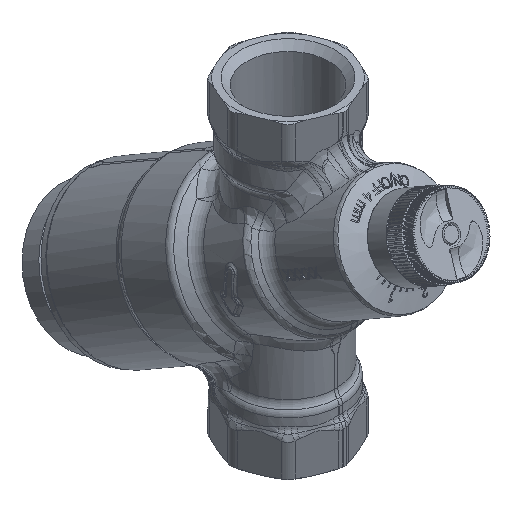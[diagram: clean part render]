
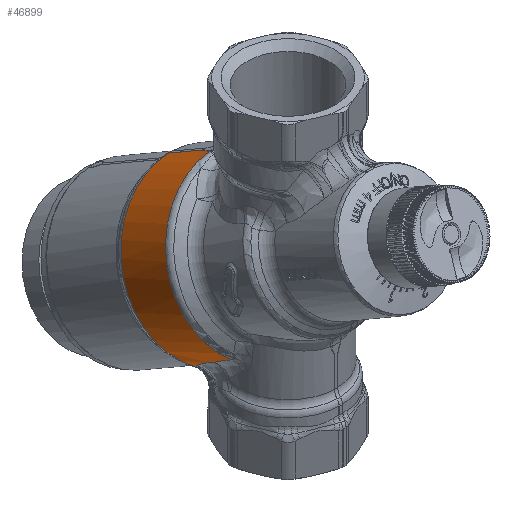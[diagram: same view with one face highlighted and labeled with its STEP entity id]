
A CAD part, isometric view. The second image highlights one B-rep face of the part: STEP entity #46899.
In plain terms, the highlighted cylindrical face has radius 18.65 mm (diameter 37.3 mm), a partial arc.
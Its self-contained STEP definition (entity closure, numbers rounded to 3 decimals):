
#1410=CIRCLE('',#50243,18.65);
#1411=CIRCLE('',#50245,18.65);
#5091=FACE_OUTER_BOUND('',#7835,.T.);
#7835=EDGE_LOOP('',(#32645,#32646,#32647,#32648,#32649,#32650));
#10815=B_SPLINE_CURVE_WITH_KNOTS('',3,(#75485,#75486,#75487,#75488),
 .UNSPECIFIED.,.F.,.F.,(4,4),(0.,0.001),.UNSPECIFIED.);
#10818=B_SPLINE_CURVE_WITH_KNOTS('',3,(#75584,#75585,#75586,#75587,#75588,
#75589,#75590,#75591,#75592,#75593),.UNSPECIFIED.,.F.,.F.,(4,2,2,2,4),(0.,
0.001,0.003,0.004,0.006),
 .UNSPECIFIED.);
#10821=B_SPLINE_CURVE_WITH_KNOTS('',3,(#75709,#75710,#75711,#75712,#75713,
#75714),.UNSPECIFIED.,.F.,.F.,(4,2,4),(0.,0.003,0.005),
 .UNSPECIFIED.);
#10857=B_SPLINE_CURVE_WITH_KNOTS('',3,(#77660,#77661,#77662,#77663,#77664,
#77665,#77666,#77667,#77668,#77669,#77670,#77671,#77672,#77673,#77674,#77675,
#77676,#77677,#77678,#77679,#77680,#77681,#77682,#77683,#77684,#77685,#77686,
#77687,#77688,#77689,#77690,#77691,#77692,#77693,#77694,#77695,#77696,#77697,
#77698,#77699,#77700,#77701,#77702,#77703,#77704,#77705,#77706,#77707,#77708,
#77709,#77710,#77711,#77712,#77713,#77714,#77715),.UNSPECIFIED.,.F.,.F.,
(4,2,1,1,1,2,2,1,1,1,1,2,2,1,1,1,1,2,2,2,1,1,1,1,2,2,1,1,1,2,2,2,1,1,2,
2,2,4),(0.,0.031,0.047,0.055,0.059,
0.061,0.062,0.078,0.086,
0.09,0.092,0.093,0.094,0.109,
0.117,0.121,0.123,0.124,
0.125,0.141,0.148,0.152,
0.154,0.155,0.156,0.156,
0.172,0.18,0.184,0.186,
0.188,0.219,0.234,0.242,
0.246,0.25,0.5,1.),.UNSPECIFIED.);
#19451=VERTEX_POINT('',#72815);
#19514=VERTEX_POINT('',#75454);
#19516=VERTEX_POINT('',#75483);
#19520=VERTEX_POINT('',#75707);
#19546=VERTEX_POINT('',#77565);
#19547=VERTEX_POINT('',#77659);
#24583=EDGE_CURVE('',#19514,#19516,#10815,.T.);
#24586=EDGE_CURVE('',#19516,#19451,#10818,.T.);
#24591=EDGE_CURVE('',#19451,#19520,#10821,.T.);
#24651=EDGE_CURVE('',#19546,#19520,#1410,.T.);
#24652=EDGE_CURVE('',#19546,#19547,#10857,.T.);
#24653=EDGE_CURVE('',#19547,#19514,#1411,.T.);
#32645=ORIENTED_EDGE('',*,*,#24651,.F.);
#32646=ORIENTED_EDGE('',*,*,#24652,.T.);
#32647=ORIENTED_EDGE('',*,*,#24653,.T.);
#32648=ORIENTED_EDGE('',*,*,#24583,.T.);
#32649=ORIENTED_EDGE('',*,*,#24586,.T.);
#32650=ORIENTED_EDGE('',*,*,#24591,.T.);
#45060=CYLINDRICAL_SURFACE('',#50244,18.65);
#46899=ADVANCED_FACE('',(#5091),#45060,.T.);
#50243=AXIS2_PLACEMENT_3D('',#77657,#54666,#54667);
#50244=AXIS2_PLACEMENT_3D('',#77658,#54668,#54669);
#50245=AXIS2_PLACEMENT_3D('',#77716,#54670,#54671);
#54666=DIRECTION('center_axis',(0.,-0.866,
0.5));
#54667=DIRECTION('ref_axis',(0.,-0.5,-0.866));
#54668=DIRECTION('center_axis',(0.,-0.866,
0.5));
#54669=DIRECTION('ref_axis',(0.,-0.5,-0.866));
#54670=DIRECTION('center_axis',(0.,-0.866,
0.5));
#54671=DIRECTION('ref_axis',(0.,-0.5,-0.866));
#72815=CARTESIAN_POINT('',(-12.119,5.21,-19.376));
#75454=CARTESIAN_POINT('',(-11.183,10.531,-23.314));
#75483=CARTESIAN_POINT('',(-11.494,9.895,-22.672));
#75485=CARTESIAN_POINT('Ctrl Pts',(-11.183,10.531,-23.314));
#75486=CARTESIAN_POINT('Ctrl Pts',(-11.291,10.321,-23.1));
#75487=CARTESIAN_POINT('Ctrl Pts',(-11.394,10.109,-22.886));
#75488=CARTESIAN_POINT('Ctrl Pts',(-11.494,9.895,-22.672));
#75584=CARTESIAN_POINT('Ctrl Pts',(-11.494,9.895,-22.672));
#75585=CARTESIAN_POINT('Ctrl Pts',(-11.647,9.568,-22.345));
#75586=CARTESIAN_POINT('Ctrl Pts',(-11.77,9.22,-22.029));
#75587=CARTESIAN_POINT('Ctrl Pts',(-11.964,8.489,-21.421));
#75588=CARTESIAN_POINT('Ctrl Pts',(-12.036,8.104,-21.129));
#75589=CARTESIAN_POINT('Ctrl Pts',(-12.133,7.314,-20.578));
#75590=CARTESIAN_POINT('Ctrl Pts',(-12.159,6.908,-20.317));
#75591=CARTESIAN_POINT('Ctrl Pts',(-12.17,6.073,-19.825));
#75592=CARTESIAN_POINT('Ctrl Pts',(-12.154,5.644,-19.593));
#75593=CARTESIAN_POINT('Ctrl Pts',(-12.119,5.21,-19.376));
#75707=CARTESIAN_POINT('',(-12.453,0.704,-16.437));
#75709=CARTESIAN_POINT('Ctrl Pts',(-12.119,5.21,-19.376));
#75710=CARTESIAN_POINT('Ctrl Pts',(-12.259,4.502,-18.83));
#75711=CARTESIAN_POINT('Ctrl Pts',(-12.36,3.776,-18.307));
#75712=CARTESIAN_POINT('Ctrl Pts',(-12.477,2.278,-17.322));
#75713=CARTESIAN_POINT('Ctrl Pts',(-12.492,1.506,-16.86));
#75714=CARTESIAN_POINT('Ctrl Pts',(-12.453,0.704,
-16.437));
#77565=CARTESIAN_POINT('',(-1.234,16.95,11.702));
#77657=CARTESIAN_POINT('Origin',(0.,7.646,
-4.414));
#77658=CARTESIAN_POINT('Origin',(0.,-35.983,
20.775));
#77659=CARTESIAN_POINT('',(-0.398,27.316,5.759));
#77660=CARTESIAN_POINT('Ctrl Pts',(-1.234,16.95,11.702));
#77661=CARTESIAN_POINT('Ctrl Pts',(-1.234,17.047,11.646));
#77662=CARTESIAN_POINT('Ctrl Pts',(-1.223,17.149,11.588));
#77663=CARTESIAN_POINT('Ctrl Pts',(-1.192,17.312,11.496));
#77664=CARTESIAN_POINT('Ctrl Pts',(-1.172,17.396,11.449));
#77665=CARTESIAN_POINT('Ctrl Pts',(-1.142,17.497,11.393));
#77666=CARTESIAN_POINT('Ctrl Pts',(-1.126,17.549,11.364));
#77667=CARTESIAN_POINT('Ctrl Pts',(-1.118,17.571,11.352));
#77668=CARTESIAN_POINT('Ctrl Pts',(-1.113,17.586,11.344));
#77669=CARTESIAN_POINT('Ctrl Pts',(-1.11,17.595,11.339));
#77670=CARTESIAN_POINT('Ctrl Pts',(-1.091,17.65,11.308));
#77671=CARTESIAN_POINT('Ctrl Pts',(-1.062,17.728,11.265));
#77672=CARTESIAN_POINT('Ctrl Pts',(-1.022,17.825,11.211));
#77673=CARTESIAN_POINT('Ctrl Pts',(-1.,17.876,11.183));
#77674=CARTESIAN_POINT('Ctrl Pts',(-0.989,17.902,
11.169));
#77675=CARTESIAN_POINT('Ctrl Pts',(-0.984,17.913,
11.163));
#77676=CARTESIAN_POINT('Ctrl Pts',(-0.981,17.92,
11.159));
#77677=CARTESIAN_POINT('Ctrl Pts',(-0.979,17.925,
11.156));
#77678=CARTESIAN_POINT('Ctrl Pts',(-0.959,17.969,
11.132));
#77679=CARTESIAN_POINT('Ctrl Pts',(-0.927,18.041,
11.092));
#77680=CARTESIAN_POINT('Ctrl Pts',(-0.879,18.143,11.037));
#77681=CARTESIAN_POINT('Ctrl Pts',(-0.853,18.197,
11.006));
#77682=CARTESIAN_POINT('Ctrl Pts',(-0.84,18.226,
10.991));
#77683=CARTESIAN_POINT('Ctrl Pts',(-0.834,18.238,
10.984));
#77684=CARTESIAN_POINT('Ctrl Pts',(-0.83,18.247,10.979));
#77685=CARTESIAN_POINT('Ctrl Pts',(-0.828,18.25,10.977));
#77686=CARTESIAN_POINT('Ctrl Pts',(-0.786,18.337,
10.929));
#77687=CARTESIAN_POINT('Ctrl Pts',(-0.754,18.405,10.891));
#77688=CARTESIAN_POINT('Ctrl Pts',(-0.715,18.487,10.846));
#77689=CARTESIAN_POINT('Ctrl Pts',(-0.698,18.522,
10.826));
#77690=CARTESIAN_POINT('Ctrl Pts',(-0.683,18.555,
10.808));
#77691=CARTESIAN_POINT('Ctrl Pts',(-0.676,18.569,10.8));
#77692=CARTESIAN_POINT('Ctrl Pts',(-0.673,18.575,
10.797));
#77693=CARTESIAN_POINT('Ctrl Pts',(-0.672,18.578,10.795));
#77694=CARTESIAN_POINT('Ctrl Pts',(-0.671,18.58,
10.794));
#77695=CARTESIAN_POINT('Ctrl Pts',(-0.672,18.58,10.794));
#77696=CARTESIAN_POINT('Ctrl Pts',(-0.643,18.643,
10.759));
#77697=CARTESIAN_POINT('Ctrl Pts',(-0.604,18.729,
10.711));
#77698=CARTESIAN_POINT('Ctrl Pts',(-0.567,18.821,
10.659));
#77699=CARTESIAN_POINT('Ctrl Pts',(-0.549,18.865,
10.634));
#77700=CARTESIAN_POINT('Ctrl Pts',(-0.543,18.883,10.624));
#77701=CARTESIAN_POINT('Ctrl Pts',(-0.538,18.895,
10.617));
#77702=CARTESIAN_POINT('Ctrl Pts',(-0.536,18.899,
10.615));
#77703=CARTESIAN_POINT('Ctrl Pts',(-0.488,19.028,
10.542));
#77704=CARTESIAN_POINT('Ctrl Pts',(-0.454,19.143,
10.477));
#77705=CARTESIAN_POINT('Ctrl Pts',(-0.421,19.305,10.384));
#77706=CARTESIAN_POINT('Ctrl Pts',(-0.408,19.383,
10.339));
#77707=CARTESIAN_POINT('Ctrl Pts',(-0.4,19.471,
10.289));
#77708=CARTESIAN_POINT('Ctrl Pts',(-0.399,19.507,
10.268));
#77709=CARTESIAN_POINT('Ctrl Pts',(-0.398,19.532,
10.254));
#77710=CARTESIAN_POINT('Ctrl Pts',(-0.398,19.542,
10.248));
#77711=CARTESIAN_POINT('Ctrl Pts',(-0.397,20.418,
9.742));
#77712=CARTESIAN_POINT('Ctrl Pts',(-0.397,21.28,
9.244));
#77713=CARTESIAN_POINT('Ctrl Pts',(-0.399,23.867,
7.751));
#77714=CARTESIAN_POINT('Ctrl Pts',(-0.399,25.592,
6.755));
#77715=CARTESIAN_POINT('Ctrl Pts',(-0.398,27.316,5.759));
#77716=CARTESIAN_POINT('Origin',(0.,17.994,
-10.389));
